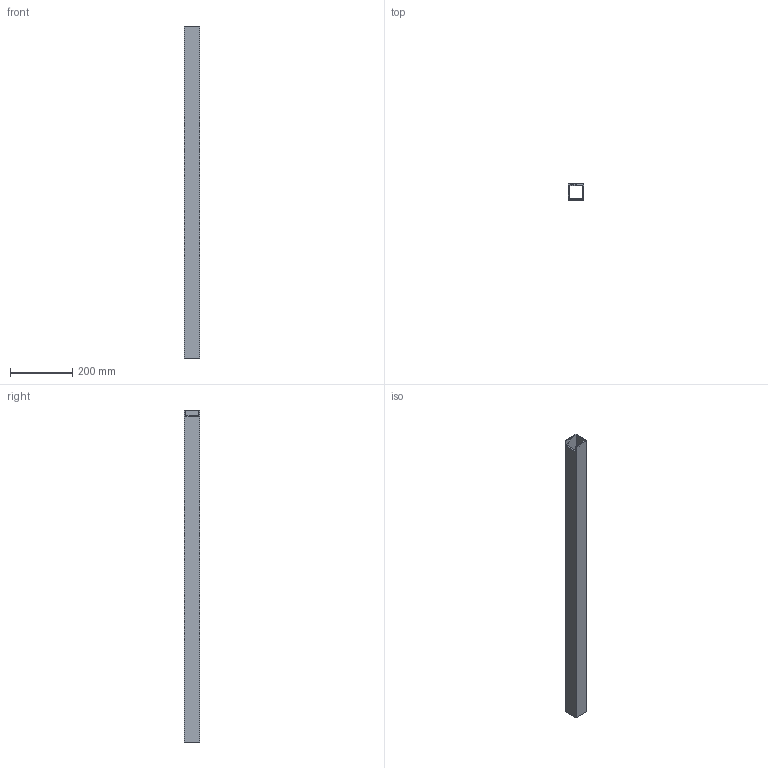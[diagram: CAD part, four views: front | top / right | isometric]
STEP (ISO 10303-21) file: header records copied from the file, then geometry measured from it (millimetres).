
FILE_DESCRIPTION(('Open CASCADE Model'),'2;1');
FILE_NAME('Open CASCADE Shape Model','2026-10-15T15:10:07',('Author'),( 'Open CASCADE'),'Open CASCADE STEP processor 8.0','Open CASCADE 8.0' ,'Unknown');
FILE_SCHEMA(('AUTOMOTIVE_DESIGN { 1 0 10303 214 1 1 1 1 }'));
Length unit declared in the file: millimetre
Products named in the file (1): SHS50x50x4_L1070000_P05_JUNTA_16 197
Bounding box: 50 x 50 x 1070 mm (x, y, z)
Volume: 783705.9 mm3; surface area: 393727.8 mm2
Topology: 1 solids, 1 shells, 15 faces, 42 edges, 28 vertices
Faces by surface type: plane 13, cylinder 2
Entity records: 1072 total; most frequent: CARTESIAN_POINT 238, DIRECTION 146, LINE 90, VECTOR 90, ORIENTED_EDGE 84, PCURVE 84, DEFINITIONAL_REPRESENTATION 84, EDGE_CURVE 42
